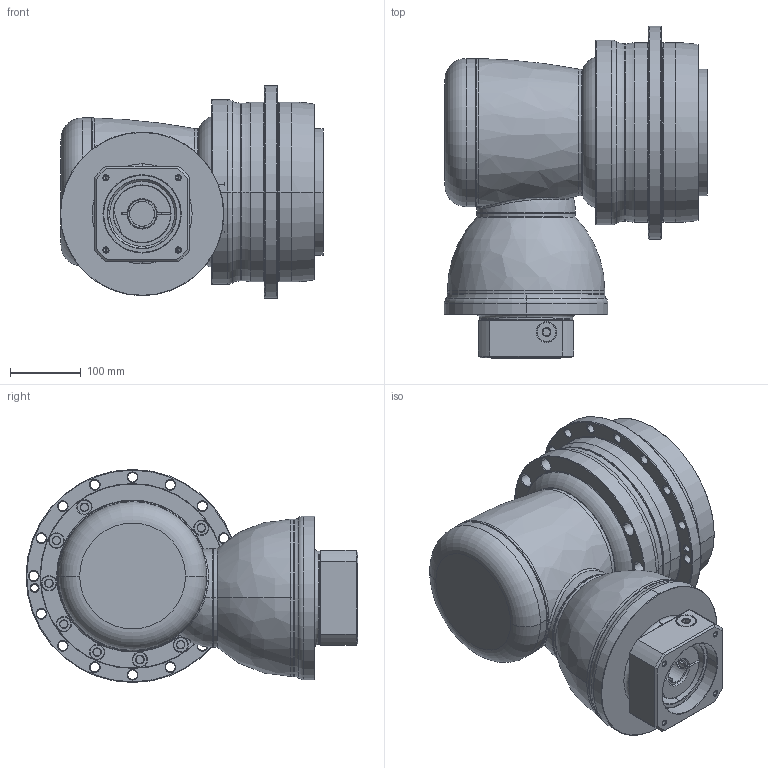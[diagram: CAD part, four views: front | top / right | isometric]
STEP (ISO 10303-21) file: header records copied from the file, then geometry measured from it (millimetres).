
FILE_DESCRIPTION((''),'2;1');
FILE_NAME('AHK255_2ST_35-P0409800101_ASM','2016-10-14T',('d01943'),(''),'PRO/ENGINEER BY PARAMETRIC TECHNOLOGY CORPORATION, 2008410','PRO/ENGINEER BY PARAMETRIC TECHNOLOGY CORPORATION, 2008410','');
FILE_SCHEMA(('CONFIG_CONTROL_DESIGN'));
Length unit declared in the file: millimetre
Products named in the file (12): P1008600002; P1802700001; P0278700003; P0359700003; P1315600001; P1007600001; P1318600101; P0503800012; P0912601201; P0409800101; 21711422019; AHK255_2ST_35-P0409800101_ASM
Assembly tree (11 placements, depth 2):
  AHK255_2ST_35-P0409800101_ASM
    P1008600002
    P1802700001
    P0278700003
    P0359700003
    P1315600001
    P1007600001
    P1318600101
    P0503800012
    P0912601201
    P0409800101
    21711422019
Bounding box: 373.5 x 470.5 x 302 mm (x, y, z)
Volume: 15908449.4 mm3; surface area: 1305181.2 mm2
Topology: 12 solids, 12 shells, 929 faces, 2107 edges, 1228 vertices
Faces by surface type: cylinder 332, cone 300, plane 134, torus 126, bspline 35, sphere 2
Entity records: 32629 total; most frequent: CARTESIAN_POINT 11131, DIRECTION 4950, ORIENTED_EDGE 4122, AXIS2_PLACEMENT_3D 2123, EDGE_CURVE 2061, VERTEX_POINT 1228, CIRCLE 1206, EDGE_LOOP 1091
